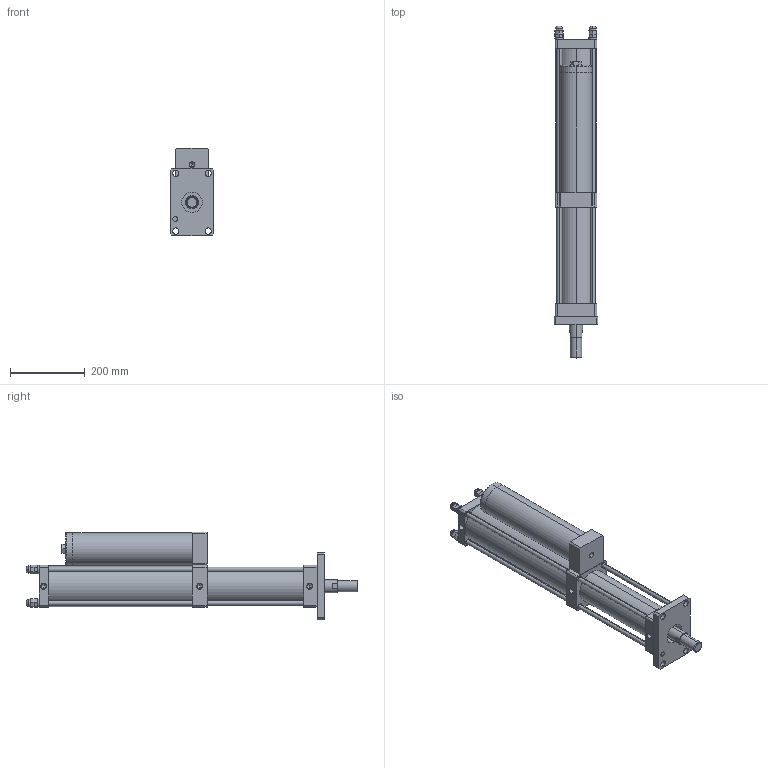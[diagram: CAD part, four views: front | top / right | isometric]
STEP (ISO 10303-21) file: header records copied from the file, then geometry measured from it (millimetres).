
FILE_DESCRIPTION (( 'STEP AP203' ), '1' );
FILE_NAME ('CPT-80-150-20-8T.STEP', '2016-03-11T03:14:07', ( 'WIN' ), ( '' ), 'SwSTEP 2.0', 'SolidWorks 2014', '' );
FILE_SCHEMA (( 'CONFIG_CONTROL_DESIGN' ));
Length unit declared in the file: millimetre
Products named in the file (1): CPT-80-150-20-8T
Bounding box: 118 x 891.07 x 235 mm (x, y, z)
Volume: 7725831.1 mm3; surface area: 797603.6 mm2
Topology: 17 solids, 17 shells, 389 faces, 959 edges, 560 vertices
Faces by surface type: plane 181, cylinder 90, bspline 48, torus 46, cone 24
Entity records: 12577 total; most frequent: CARTESIAN_POINT 3667, DIRECTION 1874, ORIENTED_EDGE 1786, EDGE_CURVE 893, AXIS2_PLACEMENT_3D 687, VERTEX_POINT 560, LINE 500, VECTOR 500
